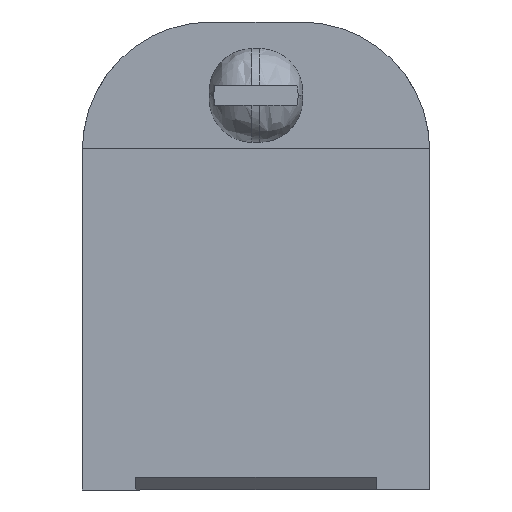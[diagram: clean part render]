
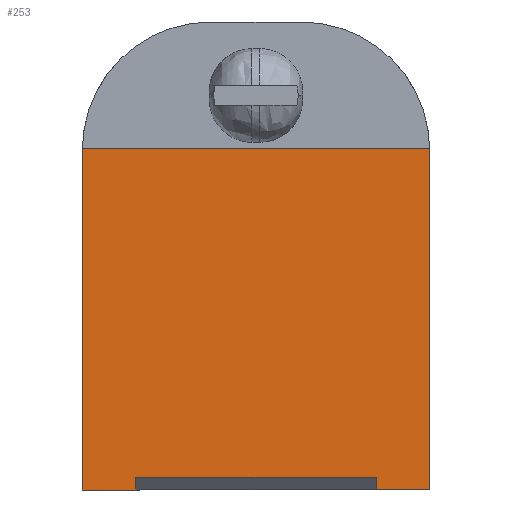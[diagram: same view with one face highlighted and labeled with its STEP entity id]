
A CAD part, left-side view. The second image highlights one B-rep face of the part: STEP entity #253.
In plain terms, the highlighted planar face has unit normal (-1, 0, 0).
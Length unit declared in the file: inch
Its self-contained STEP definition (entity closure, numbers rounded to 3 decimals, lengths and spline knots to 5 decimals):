
#253=ADVANCED_FACE('',(#500),#501,.T.);
#500=FACE_OUTER_BOUND('',#1985,.T.);
#501=PLANE('',#1986);
#1985=EDGE_LOOP('',(#2571,#2572,#2573,#2574,#2575,#2576,#2577,#2578,#2579,#2580));
#1986=AXIS2_PLACEMENT_3D('',#2581,#2582,#2583);
#2571=ORIENTED_EDGE('',*,*,#2900,.F.);
#2572=ORIENTED_EDGE('',*,*,#2870,.F.);
#2573=ORIENTED_EDGE('',*,*,#2867,.T.);
#2574=ORIENTED_EDGE('',*,*,#2772,.F.);
#2575=ORIENTED_EDGE('',*,*,#2828,.T.);
#2576=ORIENTED_EDGE('',*,*,#2873,.F.);
#2577=ORIENTED_EDGE('',*,*,#2717,.T.);
#2578=ORIENTED_EDGE('',*,*,#2802,.F.);
#2579=ORIENTED_EDGE('',*,*,#2859,.F.);
#2580=ORIENTED_EDGE('',*,*,#2735,.F.);
#2581=CARTESIAN_POINT('',(0.,1.625,1.26675));
#2582=DIRECTION('',(-1.0,0.0,0.0));
#2583=DIRECTION('',(0.0,0.0,-1.0));
#2717=EDGE_CURVE('',#3056,#3054,#3057,.T.);
#2735=EDGE_CURVE('',#3084,#3086,#3087,.T.);
#2772=EDGE_CURVE('',#3144,#3146,#3147,.T.);
#2802=EDGE_CURVE('',#3187,#3054,#3189,.T.);
#2828=EDGE_CURVE('',#3144,#3218,#3220,.T.);
#2859=EDGE_CURVE('',#3086,#3187,#3261,.T.);
#2867=EDGE_CURVE('',#3272,#3146,#3273,.T.);
#2870=EDGE_CURVE('',#3272,#3276,#3277,.T.);
#2873=EDGE_CURVE('',#3056,#3218,#3280,.T.);
#2900=EDGE_CURVE('',#3276,#3084,#3311,.T.);
#3054=VERTEX_POINT('',#3595);
#3056=VERTEX_POINT('',#3598);
#3057=LINE('',#3599,#3600);
#3084=VERTEX_POINT('',#3652);
#3086=VERTEX_POINT('',#3655);
#3087=CIRCLE('',#3656,0.6);
#3144=VERTEX_POINT('',#3771);
#3146=VERTEX_POINT('',#3774);
#3147=LINE('',#3775,#3776);
#3187=VERTEX_POINT('',#3900);
#3189=CIRCLE('',#3903,0.6);
#3218=VERTEX_POINT('',#4026);
#3220=LINE('',#4029,#4030);
#3261=LINE('',#4152,#4153);
#3272=VERTEX_POINT('',#4218);
#3273=LINE('',#4219,#4220);
#3276=VERTEX_POINT('',#4224);
#3277=LINE('',#4225,#4226);
#3280=LINE('',#4231,#4232);
#3311=LINE('',#4359,#4360);
#3595=CARTESIAN_POINT('',(0.0,0.,1.58975));
#3598=CARTESIAN_POINT('',(0.,0.,0.));
#3599=CARTESIAN_POINT('',(0.0,0.,-0.6875));
#3600=VECTOR('',#4444,1.);
#3652=CARTESIAN_POINT('',(0.0,1.625,1.58975));
#3655=CARTESIAN_POINT('',(0.0,1.62497,1.596));
#3656=AXIS2_PLACEMENT_3D('',#4453,#4454,#4455);
#3771=CARTESIAN_POINT('',(0.,0.25,0.06));
#3774=CARTESIAN_POINT('',(0.,1.375,0.06));
#3775=CARTESIAN_POINT('',(0.,1.625,0.06));
#3776=VECTOR('',#4480,1.);
#3900=CARTESIAN_POINT('',(0.0,0.00003,1.596));
#3903=AXIS2_PLACEMENT_3D('',#4496,#4497,#4498);
#4026=CARTESIAN_POINT('',(0.,0.25,0.));
#4029=CARTESIAN_POINT('',(0.,0.25,0.0));
#4030=VECTOR('',#4505,1.);
#4152=CARTESIAN_POINT('',(0.0,1.625,1.596));
#4153=VECTOR('',#4526,1.);
#4218=CARTESIAN_POINT('',(0.,1.375,0.));
#4219=CARTESIAN_POINT('',(0.,1.375,0.));
#4220=VECTOR('',#4529,1.);
#4224=CARTESIAN_POINT('',(0.,1.625,0.));
#4225=CARTESIAN_POINT('',(0.,1.375,0.));
#4226=VECTOR('',#4531,1.);
#4231=CARTESIAN_POINT('',(0.,0.,0.));
#4232=VECTOR('',#4534,1.);
#4359=CARTESIAN_POINT('',(0.0,1.625,-0.9375));
#4360=VECTOR('',#4541,1.);
#4444=DIRECTION('',(0.0,0.0,1.0));
#4453=CARTESIAN_POINT('',(0.0,1.025,1.58975));
#4454=DIRECTION('',(1.0,0.0,-0.0));
#4455=DIRECTION('',(0.0,0.707,0.707));
#4480=DIRECTION('',(0.0,1.0,0.0));
#4496=CARTESIAN_POINT('',(0.0,0.6,1.58975));
#4497=DIRECTION('',(1.0,0.0,0.0));
#4498=DIRECTION('',(0.0,-0.707,0.707));
#4505=DIRECTION('',(0.0,0.0,-1.0));
#4526=DIRECTION('',(0.0,-1.0,0.0));
#4529=DIRECTION('',(0.0,0.0,1.0));
#4531=DIRECTION('',(0.0,1.0,0.0));
#4534=DIRECTION('',(0.0,1.0,0.0));
#4541=DIRECTION('',(0.0,0.0,1.0));
